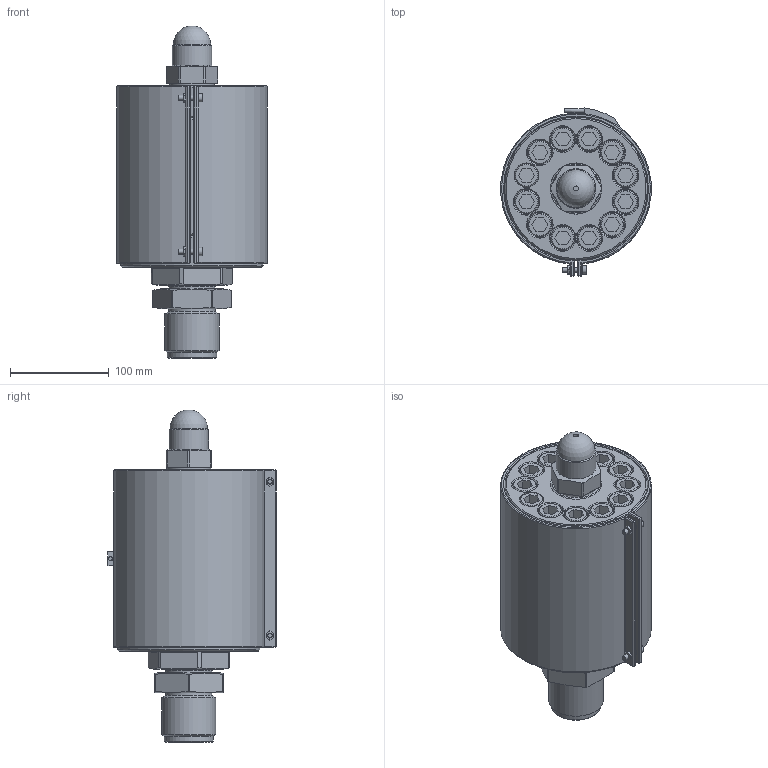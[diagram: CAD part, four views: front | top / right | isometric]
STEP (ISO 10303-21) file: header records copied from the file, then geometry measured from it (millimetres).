
FILE_DESCRIPTION(('STEP AP214'),'1');
FILE_NAME('FF4000.stp','2018-06-15T10:14:28',(' '),(' '),'Spatial InterOp 3D',' ',' ');
FILE_SCHEMA(('AUTOMOTIVE_DESIGN { 1 0 10303 214 1 1 1 1 }'));
Length unit declared in the file: millimetre
Products named in the file (1): 1
Bounding box: 152.44 x 170.49 x 336.84 mm (x, y, z)
Volume: 3556976.4 mm3; surface area: 696884.6 mm2
Topology: 35 solids, 35 shells, 861 faces, 2012 edges, 1281 vertices
Faces by surface type: plane 393, cone 220, cylinder 201, bspline 20, revolution 18, torus 8, sphere 1
Full cylindrical faces by diameter (mm): 4 x1, 4.2 x2, 5 x3, 5.5 x4, 8.5 x2, 14 x24, 16 x24, 17 x24, 20 x1, 24 x24, 25 x26, 35 x4, 40 x1, 43 x1, 48 x1, 48.8 x2, 50 x1, 51.8 x1, 52 x1, 53 x1, 55 x1, 70 x2, 80 x2, 84 x4, 145 x3
Entity records: 42716 total; most frequent: CARTESIAN_POINT 18465, DIRECTION 3618, ORIENTED_EDGE 2886, AXIS2_PLACEMENT_3D 1473, EDGE_CURVE 1443, EDGE_LOOP 1386, VERTEX_POINT 1131, FACE_OUTER_BOUND 1032
